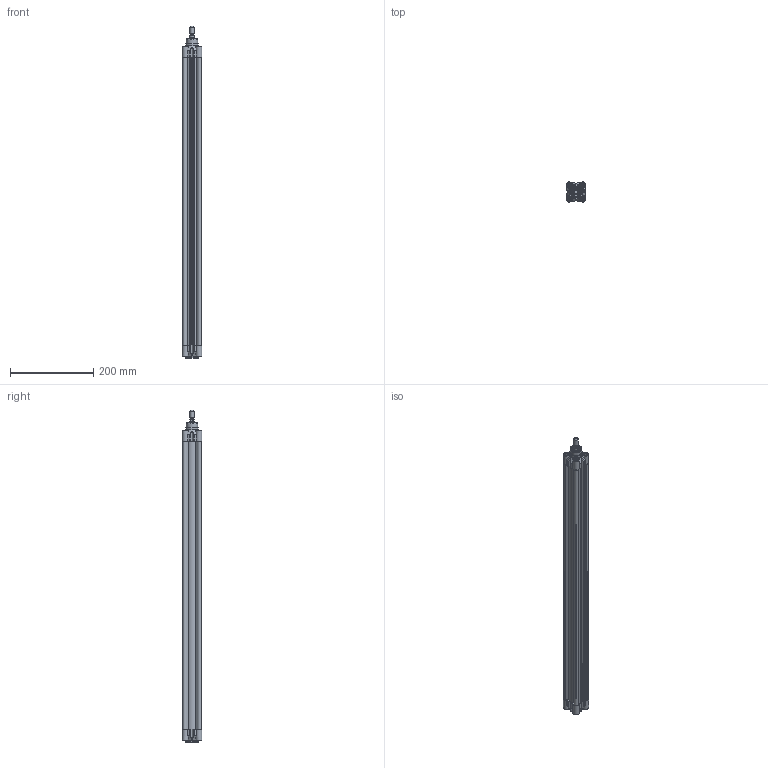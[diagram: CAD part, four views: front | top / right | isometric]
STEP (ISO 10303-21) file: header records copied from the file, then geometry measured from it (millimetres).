
FILE_DESCRIPTION(/* description */ ('CILINDRO D.E. MAGNETICO AMMORTIZZATO ISO 15552'),/* implementation_level */ '2;1');
FILE_NAME(/* name */ 'T:\Archivio Inventor\- 00 NUOVI STP PER SITO CON STELO CHE SI MUOVE\SERIE H - U\SERIE HDM\HDM032-TUBO NUOVO\HDM032.650.GS.M.stp',/* time_stamp */ '2018-07-25T14:30:04+02:00',/* author */ ('carlo.corazza'),/* organization */ (''),/* preprocessor_version */ 'ST-DEVELOPER v16.5',/* originating_system */ 'Autodesk Inventor 2017',/* authorisation */ '');
FILE_SCHEMA (('AUTOMOTIVE_DESIGN { 1 0 10303 214 3 1 1 }'));
Length unit declared in the file: millimetre
Products named in the file (5): HDM032.650.GS.M; TP; STELO-650; TA; CORPO-650
Assembly tree (4 placements, depth 2):
  HDM032.650.GS.M
    TP
    STELO-650
    TA
    CORPO-650
Bounding box: 47 x 47 x 796 mm (x, y, z)
Volume: 523501.7 mm3; surface area: 394918.9 mm2
Topology: 4 solids, 18 shells, 969 faces, 2356 edges, 1494 vertices
Faces by surface type: plane 330, cylinder 260, bspline 190, cone 86, torus 83, sphere 20
Full cylindrical faces by diameter (mm): 2 x2, 2.1 x2, 4 x2, 4.5 x2, 4.917 x8, 6 x8, 6.2 x8, 6.3 x4, 7 x2, 7.8 x4, 7.9 x3, 8 x4, 8.566 x2, 10 x9, 10.3 x8, 11.6 x1, 12 x1, 12.8 x1, 12.847 x1, 16 x1, 17 x2, 22 x3, 28 x1, 30 x2, 32 x1
Entity records: 31186 total; most frequent: CARTESIAN_POINT 9171, ORIENTED_EDGE 4162, DIRECTION 4048, EDGE_CURVE 2081, AXIS2_PLACEMENT_3D 1569, VERTEX_POINT 1436, EDGE_LOOP 1302, FACE_OUTER_BOUND 969
